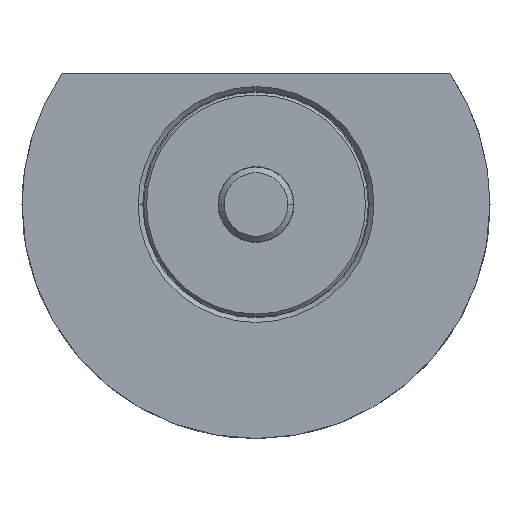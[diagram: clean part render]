
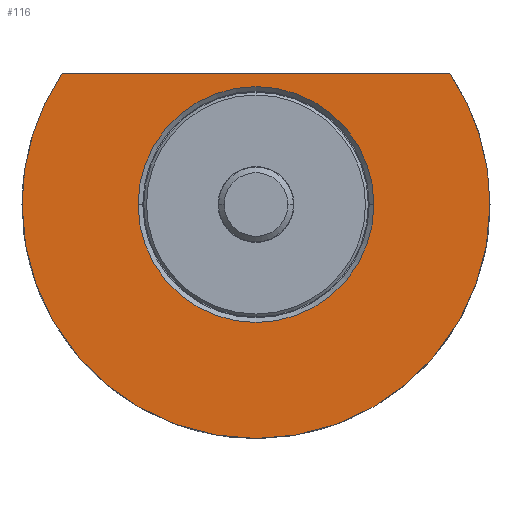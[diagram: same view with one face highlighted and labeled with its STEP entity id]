
A CAD part, front view. The second image highlights one B-rep face of the part: STEP entity #116.
In plain terms, the highlighted planar face has unit normal (0, -1, 0).
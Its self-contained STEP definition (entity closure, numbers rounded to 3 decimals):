
#37 = PLANE ( 'NONE',  #838 ) ;
#38 = DIRECTION ( 'NONE',  ( 0., 1., 0. ) ) ;
#116 = ADVANCED_FACE ( 'NONE', ( #224, #2379 ), #37, .T. ) ;
#173 = EDGE_CURVE ( 'NONE', #750, #2104, #1535, .T. ) ;
#174 = ORIENTED_EDGE ( 'NONE', *, *, #1528, .F. ) ;
#205 = CIRCLE ( 'NONE', #719, 12.6 ) ;
#215 = VERTEX_POINT ( 'NONE', #687 ) ;
#224 = FACE_BOUND ( 'NONE', #1043, .T. ) ;
#332 = ORIENTED_EDGE ( 'NONE', *, *, #173, .F. ) ;
#443 = CIRCLE ( 'NONE', #1394, 12.6 ) ;
#447 = CARTESIAN_POINT ( 'NONE',  ( 12.6, -12., 0. ) ) ;
#504 = DIRECTION ( 'NONE',  ( 0., 1., 0. ) ) ;
#563 = VECTOR ( 'NONE', #1810, 1000. ) ;
#603 = CIRCLE ( 'NONE', #2043, 25. ) ;
#678 = CARTESIAN_POINT ( 'NONE',  ( 0., -12., 0. ) ) ;
#679 = VERTEX_POINT ( 'NONE', #1734 ) ;
#683 = CARTESIAN_POINT ( 'NONE',  ( -12.6, -12., 14. ) ) ;
#687 = CARTESIAN_POINT ( 'NONE',  ( -12.6, -12., 0. ) ) ;
#719 = AXIS2_PLACEMENT_3D ( 'NONE', #1184, #38, #2013 ) ;
#750 = VERTEX_POINT ( 'NONE', #1808 ) ;
#781 = DIRECTION ( 'NONE',  ( -1., 0., 0. ) ) ;
#810 = CARTESIAN_POINT ( 'NONE',  ( -12.6, -12., 0. ) ) ;
#838 = AXIS2_PLACEMENT_3D ( 'NONE', #810, #1045, #1602 ) ;
#911 = CARTESIAN_POINT ( 'NONE',  ( 0., -12., 0. ) ) ;
#978 = DIRECTION ( 'NONE',  ( -1., 0., 0. ) ) ;
#987 = EDGE_CURVE ( 'NONE', #215, #1993, #205, .T. ) ;
#1043 = EDGE_LOOP ( 'NONE', ( #1348, #1880 ) ) ;
#1045 = DIRECTION ( 'NONE',  ( 0., -1., 0. ) ) ;
#1059 = CIRCLE ( 'NONE', #1594, 25. ) ;
#1063 = CARTESIAN_POINT ( 'NONE',  ( -20.712, -12., 14. ) ) ;
#1113 = CARTESIAN_POINT ( 'NONE',  ( 0., -12., 0. ) ) ;
#1184 = CARTESIAN_POINT ( 'NONE',  ( 0., -12., 0. ) ) ;
#1344 = ORIENTED_EDGE ( 'NONE', *, *, #2120, .F. ) ;
#1348 = ORIENTED_EDGE ( 'NONE', *, *, #2040, .T. ) ;
#1394 = AXIS2_PLACEMENT_3D ( 'NONE', #678, #1793, #1506 ) ;
#1404 = EDGE_CURVE ( 'NONE', #750, #1651, #2411, .T. ) ;
#1506 = DIRECTION ( 'NONE',  ( -1., 0., 0. ) ) ;
#1528 = EDGE_CURVE ( 'NONE', #679, #1651, #603, .T. ) ;
#1535 = CIRCLE ( 'NONE', #2150, 25. ) ;
#1594 = AXIS2_PLACEMENT_3D ( 'NONE', #1113, #2067, #781 ) ;
#1602 = DIRECTION ( 'NONE',  ( 1., 0., 0. ) ) ;
#1651 = VERTEX_POINT ( 'NONE', #1063 ) ;
#1695 = CARTESIAN_POINT ( 'NONE',  ( 25., -12., 0. ) ) ;
#1705 = DIRECTION ( 'NONE',  ( -1., 0., 0. ) ) ;
#1734 = CARTESIAN_POINT ( 'NONE',  ( -25., -12., 0. ) ) ;
#1793 = DIRECTION ( 'NONE',  ( 0., 1., 0. ) ) ;
#1808 = CARTESIAN_POINT ( 'NONE',  ( 20.712, -12., 14. ) ) ;
#1810 = DIRECTION ( 'NONE',  ( -1., 0., 0. ) ) ;
#1880 = ORIENTED_EDGE ( 'NONE', *, *, #987, .T. ) ;
#1993 = VERTEX_POINT ( 'NONE', #447 ) ;
#2013 = DIRECTION ( 'NONE',  ( -1., 0., 0. ) ) ;
#2040 = EDGE_CURVE ( 'NONE', #1993, #215, #443, .T. ) ;
#2043 = AXIS2_PLACEMENT_3D ( 'NONE', #2372, #2195, #978 ) ;
#2067 = DIRECTION ( 'NONE',  ( 0., 1., 0. ) ) ;
#2104 = VERTEX_POINT ( 'NONE', #1695 ) ;
#2120 = EDGE_CURVE ( 'NONE', #2104, #679, #1059, .T. ) ;
#2150 = AXIS2_PLACEMENT_3D ( 'NONE', #911, #504, #1705 ) ;
#2177 = EDGE_LOOP ( 'NONE', ( #332, #2459, #174, #1344 ) ) ;
#2195 = DIRECTION ( 'NONE',  ( 0., 1., 0. ) ) ;
#2372 = CARTESIAN_POINT ( 'NONE',  ( 0., -12., 0. ) ) ;
#2379 = FACE_OUTER_BOUND ( 'NONE', #2177, .T. ) ;
#2411 = LINE ( 'NONE', #683, #563 ) ;
#2459 = ORIENTED_EDGE ( 'NONE', *, *, #1404, .T. ) ;
